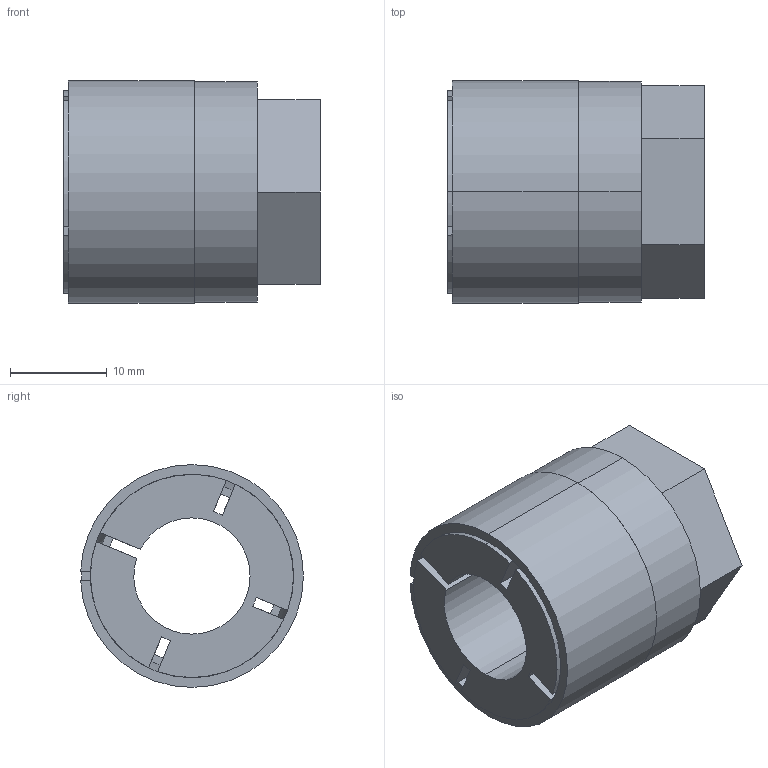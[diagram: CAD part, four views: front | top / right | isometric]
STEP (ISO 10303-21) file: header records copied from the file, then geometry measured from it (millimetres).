
FILE_DESCRIPTION (( 'STEP AP203' ), '1' );
FILE_NAME ('KBS 56 - 12 x 23.STEP', '2015-07-07T20:20:47', ( '' ), ( '' ), 'SwSTEP 2.0', 'SolidWorks 2010', '' );
FILE_SCHEMA (( 'CONFIG_CONTROL_DESIGN' ));
Length unit declared in the file: millimetre
Products named in the file (1): KBS 56 - 12 x 23
Bounding box: 26.5 x 22.99 x 23 mm (x, y, z)
Volume: 6834.3 mm3; surface area: 7365.4 mm2
Topology: 3 solids, 3 shells, 53 faces, 138 edges, 92 vertices
Faces by surface type: plane 30, cylinder 15, cone 8
Entity records: 1731 total; most frequent: CARTESIAN_POINT 320, DIRECTION 282, ORIENTED_EDGE 276, EDGE_CURVE 138, AXIS2_PLACEMENT_3D 100, VERTEX_POINT 92, LINE 82, VECTOR 82
